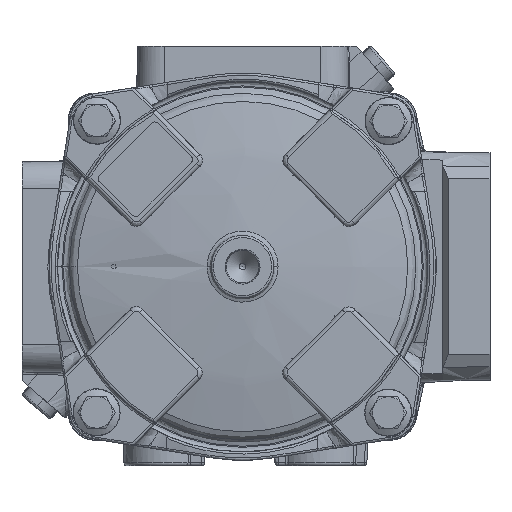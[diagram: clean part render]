
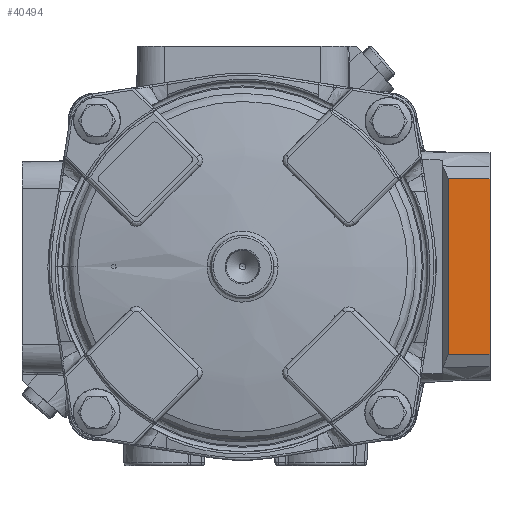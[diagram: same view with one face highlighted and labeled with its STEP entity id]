
A CAD part, front view. The second image highlights one B-rep face of the part: STEP entity #40494.
In plain terms, the highlighted free-form (B-spline) face has degree [1, 1] with [2, 2] control points.
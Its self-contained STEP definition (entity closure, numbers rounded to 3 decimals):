
#40438=CARTESIAN_POINT('V1429',(91.861,
   -52.554,39.308));
#40439=VERTEX_POINT('V1429',#40438);
#40445=CARTESIAN_POINT('V1436',(110.5,
   -52.066,39.182));
#40446=VERTEX_POINT('V1436',#40445);
#40447=CARTESIAN_POINT('E2454',(110.5,
   -52.066,39.182));
#40448=CARTESIAN_POINT('E2454',(91.861,
   -52.554,39.308));
#40449=B_SPLINE_CURVE_WITH_KNOTS('E2454',1,(#40447,#40448),
   .POLYLINE_FORM.,.F.,.U.,(2,2),(0.0,0.169),
   .UNSPECIFIED.);
#40450=EDGE_CURVE('E2454',#40446,#40439,#40449,.T.);
#40467=CARTESIAN_POINT('F931',(121.586,
   -51.776,-47.953));
#40468=CARTESIAN_POINT('F931',(121.586,
   -51.776,47.953));
#40469=CARTESIAN_POINT('F931',(-11.086,
   -55.25,-47.953));
#40470=CARTESIAN_POINT('F931',(-11.086,
   -55.25,47.953));
#40471=B_SPLINE_SURFACE_WITH_KNOTS('F931',1,1,((#40467,#40469),(
   #40468,#40470)),.PLANE_SURF.,.F.,.F.,.U.,(2,2),(2,2),(0.0,1.0),
   (0.0,1.384),.UNSPECIFIED.);
#40472=CARTESIAN_POINT('V1430',(91.861,
   -52.554,-39.308));
#40473=VERTEX_POINT('V1430',#40472);
#40474=CARTESIAN_POINT('E2258',(91.861,
   -52.554,39.308));
#40475=CARTESIAN_POINT('E2258',(91.861,
   -52.554,-39.308));
#40476=B_SPLINE_CURVE_WITH_KNOTS('E2258',1,(#40474,#40475),
   .POLYLINE_FORM.,.F.,.U.,(2,2),(0.014,
   0.986),.UNSPECIFIED.);
#40477=EDGE_CURVE('E2258',#40439,#40473,#40476,.T.);
#40478=ORIENTED_EDGE('E2258',*,*,#40477,.T.);
#40479=CARTESIAN_POINT('V1437',(110.5,
   -52.066,-39.182));
#40480=VERTEX_POINT('V1437',#40479);
#40481=CARTESIAN_POINT('E2453',(91.861,
   -52.554,-39.308));
#40482=CARTESIAN_POINT('E2453',(110.5,
   -52.066,-39.182));
#40483=B_SPLINE_CURVE_WITH_KNOTS('E2453',1,(#40481,#40482),
   .POLYLINE_FORM.,.F.,.U.,(2,2),(0.831,1.0),
   .UNSPECIFIED.);
#40484=EDGE_CURVE('E2453',#40473,#40480,#40483,.T.);
#40485=ORIENTED_EDGE('E2453',*,*,#40484,.T.);
#40486=CARTESIAN_POINT('E2265',(110.5,
   -52.066,39.182));
#40487=CARTESIAN_POINT('E2265',(110.5,
   -52.066,-39.182));
#40488=QUASI_UNIFORM_CURVE('E2265',1,(#40486,#40487),.POLYLINE_FORM.,
   .F.,.U.);
#40489=EDGE_CURVE('E2265',#40446,#40480,#40488,.T.);
#40490=ORIENTED_EDGE('E2265',*,*,#40489,.F.);
#40491=ORIENTED_EDGE('E2454',*,*,#40450,.T.);
#40492=EDGE_LOOP('F931',(#40478,#40485,#40490,#40491));
#40493=FACE_OUTER_BOUND('F931',#40492,.T.);
#40494=ADVANCED_FACE('F931',(#40493),#40471,.T.);
